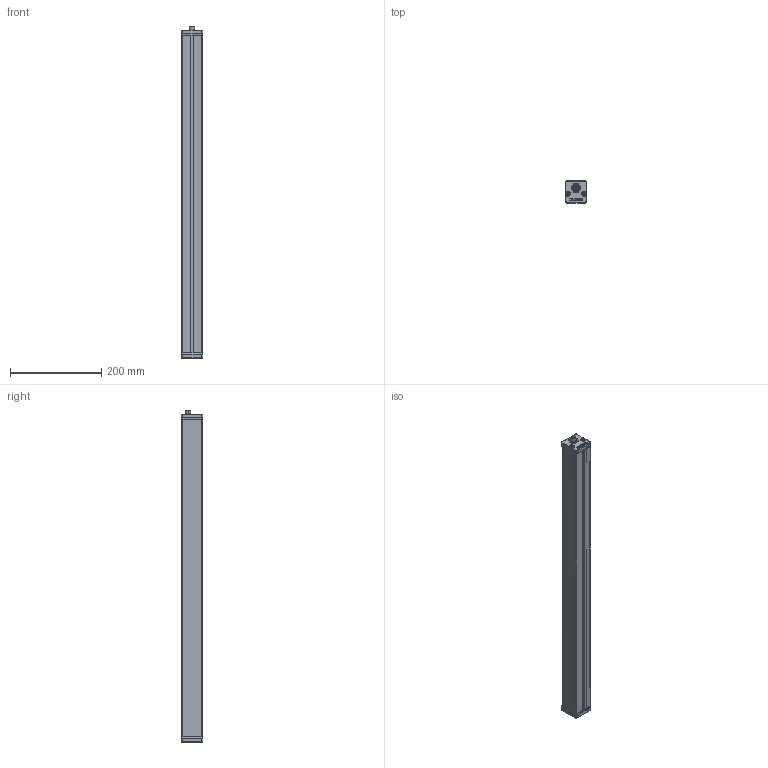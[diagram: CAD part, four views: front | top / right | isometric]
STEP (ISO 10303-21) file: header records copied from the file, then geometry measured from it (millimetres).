
FILE_DESCRIPTION (( 'STEP AP214' ), '1' );
FILE_NAME ('XBAR24.STEP', '2012-07-10T09:13:01', ( ' ' ), ( '' ), 'SwSTEP 2.0', 'SolidWorks 2009', '' );
FILE_SCHEMA (( 'AUTOMOTIVE_DESIGN' ));
Length unit declared in the file: millimetre
Products named in the file (1): XBAR24
Bounding box: 47 x 47 x 726.1 mm (x, y, z)
Volume: 370663.2 mm3; surface area: 381868.9 mm2
Topology: 9 solids, 9 shells, 631 faces, 1565 edges, 992 vertices
Faces by surface type: plane 300, cylinder 175, torus 62, bspline 58, cone 28, sphere 8
Entity records: 28413 total; most frequent: CARTESIAN_POINT 6647, ORIENTED_EDGE 3098, DIRECTION 2991, EDGE_CURVE 1549, AXIS2_PLACEMENT_3D 1016, VERTEX_POINT 984, VECTOR 959, LINE 959
